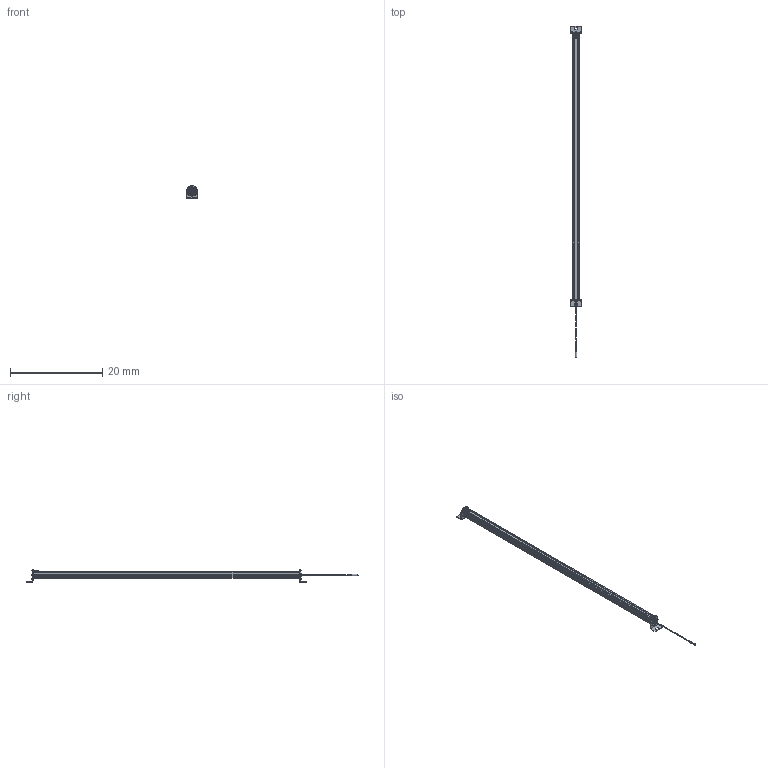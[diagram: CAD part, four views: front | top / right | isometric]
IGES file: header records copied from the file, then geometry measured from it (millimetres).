
Start section:  Autodesk DirectConnect version 7.0.27.0 ---- IGES version 5.3
Global section: file name: C:\ACADFILES\SS_PYLONS\CUSTOMER_FILES\SS-56-PYLON_3D_SMB.iges; native system: Autodesk DirectConnect 7.0.27.0; preprocessor: 7.0.27.0; author: ENGINEERMAIN; organization: Unknown; date: 20150810.125653; units: millimetre
Bounding box: 2.26 x 72.01 x 2.75 mm (x, y, z)
Surface area: 896.2 mm2 (no closed solid volume)
Topology: 0 solids, 0 shells, 754 faces, 3833 edges, 3829 vertices
Faces by surface type: bspline 754
